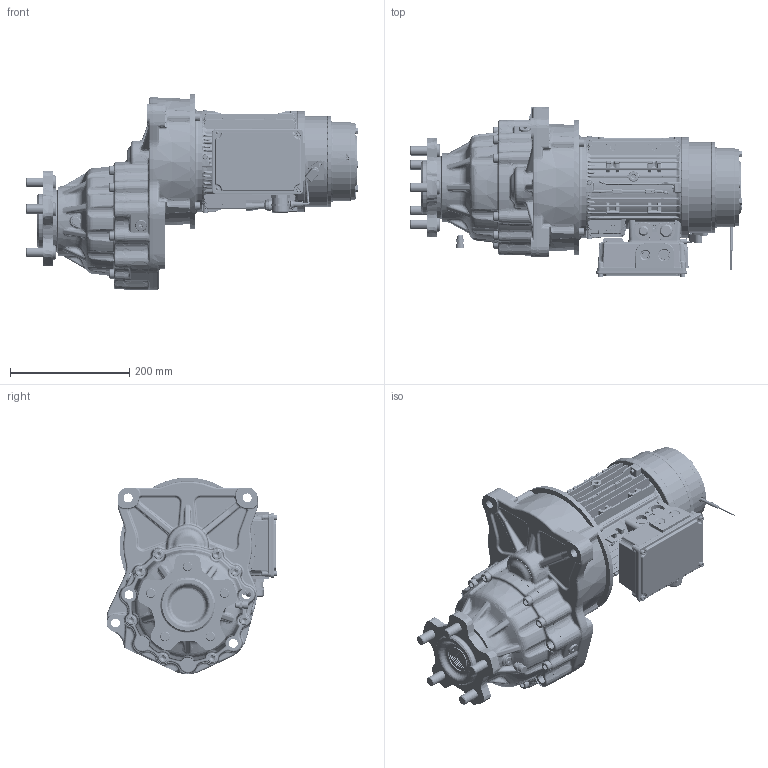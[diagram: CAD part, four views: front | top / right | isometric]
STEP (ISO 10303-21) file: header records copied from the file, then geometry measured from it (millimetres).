
FILE_DESCRIPTION(/* description */ (''),/* implementation_level */ '2;1');
FILE_NAME(/* name */ 'Z:\SITO WEB 2024\Dual Drive\MRP190\MRP190 AC\MRP190-AC.stp',/* time_stamp */ '2024-03-15T14:27:00+01:00',/* author */ ('cad3'),/* organization */ (''),/* preprocessor_version */ 'ST-DEVELOPER v18.1',/* originating_system */ 'Autodesk Inventor 2022',/* authorisation */ '');
FILE_SCHEMA (('AUTOMOTIVE_DESIGN { 1 0 10303 214 3 1 1 }'));
Products named in the file (1): MRP190-AC
Bounding box: 557.49 x 286.6 x 330.2 mm (x, y, z)
Volume: 7970067 mm3; surface area: 1169022.8 mm2
Topology: 8 solids, 32 shells, 12320 faces, 30064 edges, 17909 vertices
Faces by surface type: plane 4357, bspline 3649, cylinder 2711, cone 702, torus 572, sphere 329
Full cylindrical faces by diameter (mm): 0.5 x2, 1.5 x2, 2 x6, 3 x9, 3.2 x4, 4 x5, 4.134 x4, 4.2 x4, 4.5 x2, 4.917 x11, 5 x22, 5.2 x4, 5.3 x4, 5.4 x1, 5.5 x2, 6 x19, 6.2 x7, 6.3 x3, 6.4 x3, 6.5 x13, 6.6 x1, 6.63 x1, 6.8 x5, 8 x14, 8.4 x5, 8.5 x8, 8.88 x3, 8.917 x3, 9 x2, 9.8 x1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
Entity records: 610218 total; most frequent: CARTESIAN_POINT 325586, ORIENTED_EDGE 59584, DIRECTION 54711, EDGE_CURVE 29792, AXIS2_PLACEMENT_3D 21582, VERTEX_POINT 17907, EDGE_LOOP 13084, STYLED_ITEM 12328
